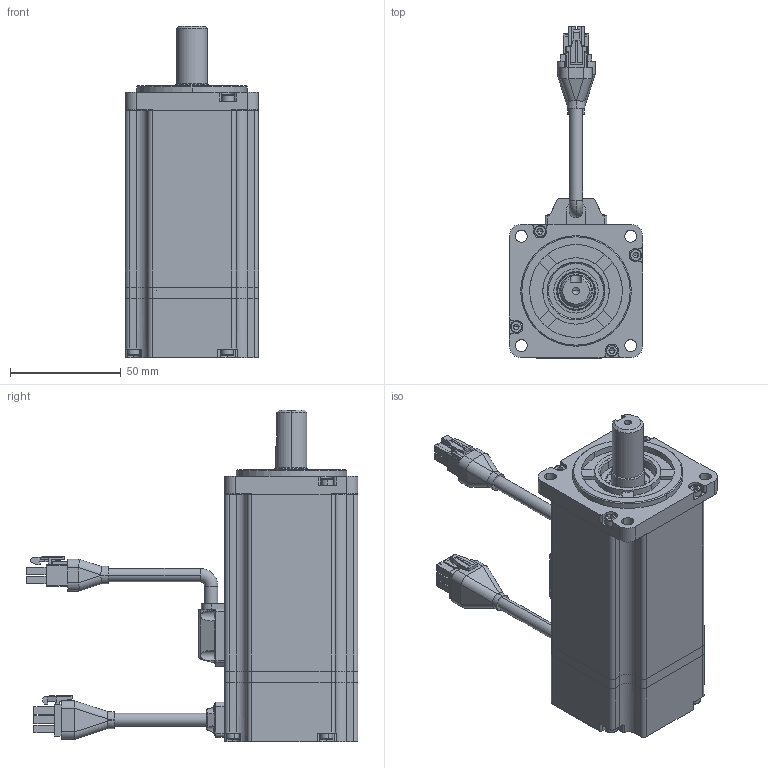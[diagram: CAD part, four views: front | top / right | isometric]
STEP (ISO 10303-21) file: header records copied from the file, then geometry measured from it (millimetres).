
FILE_DESCRIPTION (( 'STEP AP203' ), '1' );
FILE_NAME ('R60-400.STEP', '2019-08-23T05:50:27', ( '1' ), ( 'MideaGroup IT' ), 'SwSTEP 2.0', 'SolidWorks 2012', '' );
FILE_SCHEMA (( 'CONFIG_CONTROL_DESIGN' ));
Products named in the file (25): 6003; 6003_qiu; 6003_bq; 6003_nh; 6003_wq; 萇儂粣-001; 綴裔-001; 綴傷裔-001; ヶ傷裔-001; 儂褲-001; R60-400; M3X28_GB_FASTENER_SCREWS_HSHCS M3X25-C; 雄薯盄揤裔郪璃; 雄薯盄傷赽裔; 雄薯盄; 雄薯盄傷赽; 雄薯盄躇猾菜; 雄薯盄揤裔; 毀嚏盄揤裔郪璃; 毀嚏盄傷赽揤裔; M2.5X5_GB_CROSS_SCREWS_TYPE3 M2.5X8-8-N; 晤鎢ん盄傷赽; 晤鎢ん盄揤裔躇猾; 晤鎢ん盄揤裔; 蛌赽郪璃-001
Assembly tree (48 placements, depth 4):
  R60-400
    儂褲-001
    ヶ傷裔-001
    綴傷裔-001
    綴裔-001
    蛌赽郪璃-001
      萇儂粣-001
      6003
        6003_wq
        6003_nh
        6003_bq
        6003_qiu  x11
    毀嚏盄揤裔郪璃
      晤鎢ん盄揤裔
      晤鎢ん盄揤裔躇猾
      晤鎢ん盄傷赽
      M2.5X5_GB_CROSS_SCREWS_TYPE3 M2.5X8-8-N  x4
      毀嚏盄傷赽揤裔
    雄薯盄揤裔郪璃
      雄薯盄揤裔
      雄薯盄躇猾菜
      雄薯盄傷赽
      雄薯盄
      M2.5X5_GB_CROSS_SCREWS_TYPE3 M2.5X8-8-N  x4
      雄薯盄傷赽裔
    M3X28_GB_FASTENER_SCREWS_HSHCS M3X25-C  x8
Bounding box: 60.2 x 150 x 150 mm (x, y, z)
Volume: 149766.4 mm3; surface area: 103154.5 mm2
Topology: 46 solids, 72 shells, 1568 faces, 4258 edges, 2806 vertices
Faces by surface type: plane 766, cylinder 605, cone 89, torus 56, sphere 38, bspline 14
Entity records: 46343 total; most frequent: CARTESIAN_POINT 11933, DIRECTION 6586, ORIENTED_EDGE 6281, EDGE_CURVE 3321, AXIS2_PLACEMENT_3D 2329, VERTEX_POINT 2210, LINE 1928, VECTOR 1928
